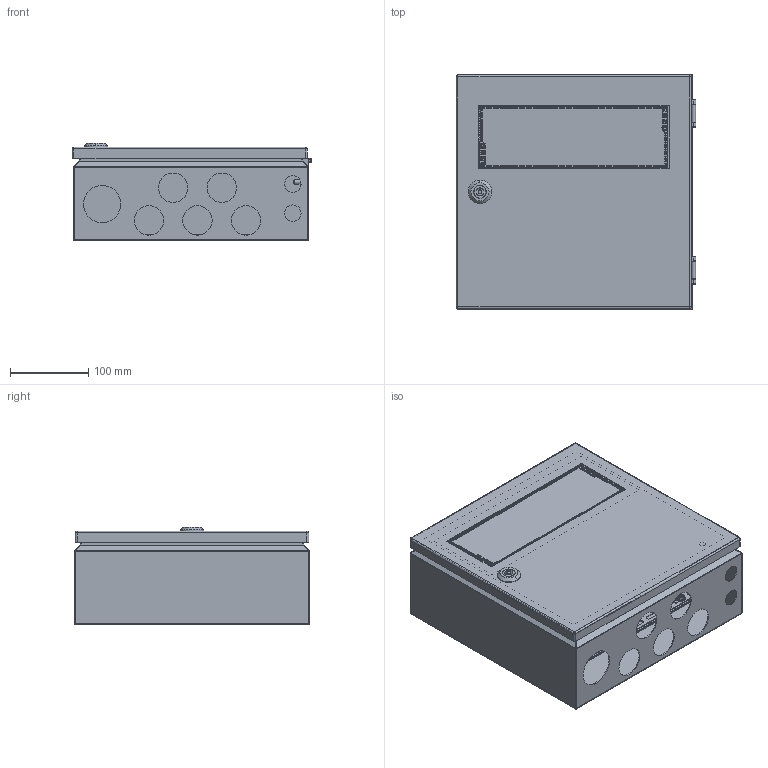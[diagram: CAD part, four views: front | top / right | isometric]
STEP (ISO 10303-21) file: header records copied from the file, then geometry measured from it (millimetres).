
FILE_DESCRIPTION (( 'STEP AP203' ), '1' );
FILE_NAME ('MEV 30.30.12 PG Øêàô êîìïàêòíûé ðàñïðåäåëèòåëüíûé ñ îáçîðíîé äâåðüþ.STEP', '2015-02-12T07:42:12', ( 'System' ), ( '' ), 'SwSTEP 2.0', 'SolidWorks 2012', '' );
FILE_SCHEMA (( 'CONFIG_CONTROL_DESIGN' ));
Length unit declared in the file: millimetre
Products named in the file (8): MEV 30.30.12 PG Øêàô êîìïàêòíûé ðàñïðåäåëèòåëüíûé ñ îáçîðíîé äâåðüþ; Êîðïóñíàÿ ÷àñòü ÑÁ; ãàéêà Ì4 ñ ôëàíöåì îö. ; 216-0140 frame part; Ãàéêà Ì5 ñ ôëàíöåì DIN 6923; MES 20.20 03.000ﾑﾁ ﾄ粢_MEV 30.30 03.000早 ┐･瑟; DR 07.90 Ex DIN-ðåéêà_DR 07.285 Ex DIN-à¥©ª ; MES 20.20.08 01.000蚜 暑痫篑_MEV 30.30.12 PG 01.000憗 姰喁汜
Assembly tree (12 placements, depth 3):
  MEV 30.30.12 PG Øêàô êîìïàêòíûé ðàñïðåäåëèòåëüíûé ñ îáçîðíîé äâåðüþ
    MES 20.20.08 01.000蚜 暑痫篑_MEV 30.30.12 PG 01.000憗 姰喁汜
    DR 07.90 Ex DIN-ðåéêà_DR 07.285 Ex DIN-à¥©ª   x2
    MES 20.20 03.000ﾑﾁ ﾄ粢_MEV 30.30 03.000早 ┐･瑟
    Ãàéêà Ì5 ñ ôëàíöåì DIN 6923  x4
    Êîðïóñíàÿ ÷àñòü ÑÁ  x2
      216-0140 frame part
      ãàéêà Ì4 ñ ôëàíöåì îö. 
Bounding box: 305.8 x 300 x 124.5 mm (x, y, z)
Volume: 588661 mm3; surface area: 744313.3 mm2
Topology: 39 solids, 39 shells, 2670 faces, 6808 edges, 4358 vertices
Faces by surface type: plane 1317, cylinder 964, bspline 220, cone 128, torus 25, sphere 16
Entity records: 70402 total; most frequent: CARTESIAN_POINT 16467, ORIENTED_EDGE 11042, DIRECTION 10937, EDGE_CURVE 5521, AXIS2_PLACEMENT_3D 3951, VERTEX_POINT 3579, LINE 3035, VECTOR 3035
